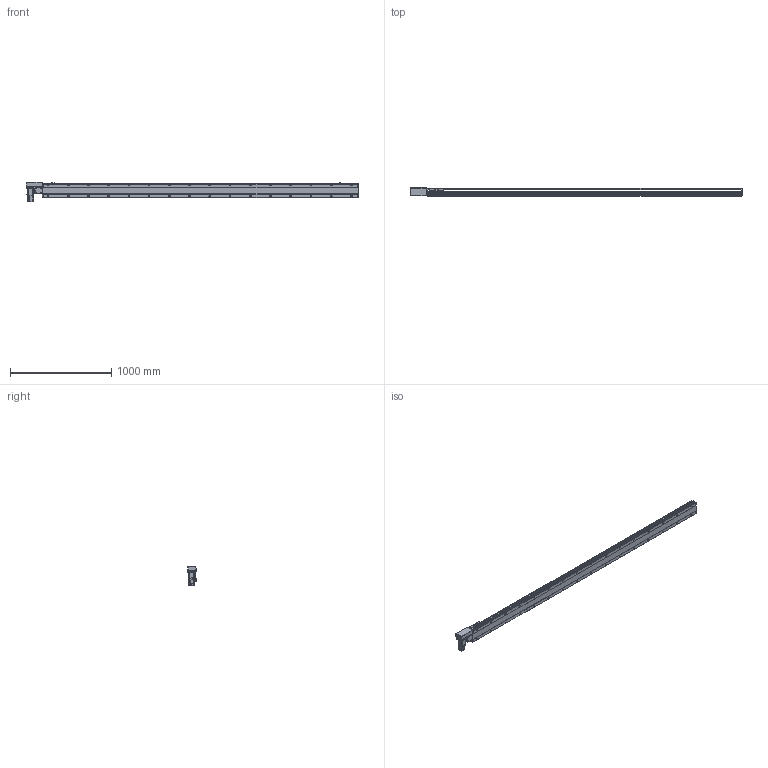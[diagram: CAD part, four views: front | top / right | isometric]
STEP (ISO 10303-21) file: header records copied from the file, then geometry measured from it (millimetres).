
FILE_DESCRIPTION(/* description */ ('STEP AP214'),/* implementation_level */ '2;1');
FILE_NAME(/* name */ 'PBS140-P40-S2850-R-T40-C1-N(0)',/* time_stamp */ '2022-06-06T03:32:02+02:00',/* author */ ('License CC BY-ND 4.0'),/* organization */ ('CADENAS'),/* preprocessor_version */ 'ST-DEVELOPER v18.102',/* originating_system */ 'PARTsolutions',/* authorisation */ ' ');
FILE_SCHEMA (('AUTOMOTIVE_DESIGN {1 0 10303 214 3 1 1}'));
Length unit declared in the file: millimetre
Products named in the file (7): PBS140-P40-S2850-R-T40-C1-N(0); PBS140_sensor; PBS140_plant; PBS140_sliser; T40-p1; PBS140T-R_motors; PBS140-S2850()_body
Assembly tree (8 placements, depth 2):
  PBS140-P40-S2850-R-T40-C1-N(0)
    PBS140_sensor  x3
    PBS140_plant
    PBS140_sliser
    T40-p1
    PBS140T-R_motors
    PBS140-S2850()_body
Bounding box: 3283 x 80.5 x 189.7 mm (x, y, z)
Volume: 14268995.1 mm3; surface area: 2422213.8 mm2
Topology: 8 solids, 8 shells, 1203 faces, 3156 edges, 2061 vertices
Faces by surface type: plane 740, cylinder 395, cone 58, sphere 8, torus 2
Full cylindrical faces by diameter (mm): 3.242 x4, 4 x2, 4.134 x4, 4.4 x8, 4.5 x2, 4.8 x4, 4.917 x40, 5.5 x7, 6 x2, 7 x34, 7.5 x8, 8 x12, 8.5 x4, 10.5 x32, 14 x1, 30 x2, 50 x2
Entity records: 34309 total; most frequent: CARTESIAN_POINT 6561, DIRECTION 5757, ORIENTED_EDGE 5392, EDGE_CURVE 2696, AXIS2_PLACEMENT_3D 2047, VERTEX_POINT 1893, LINE 1663, VECTOR 1663
